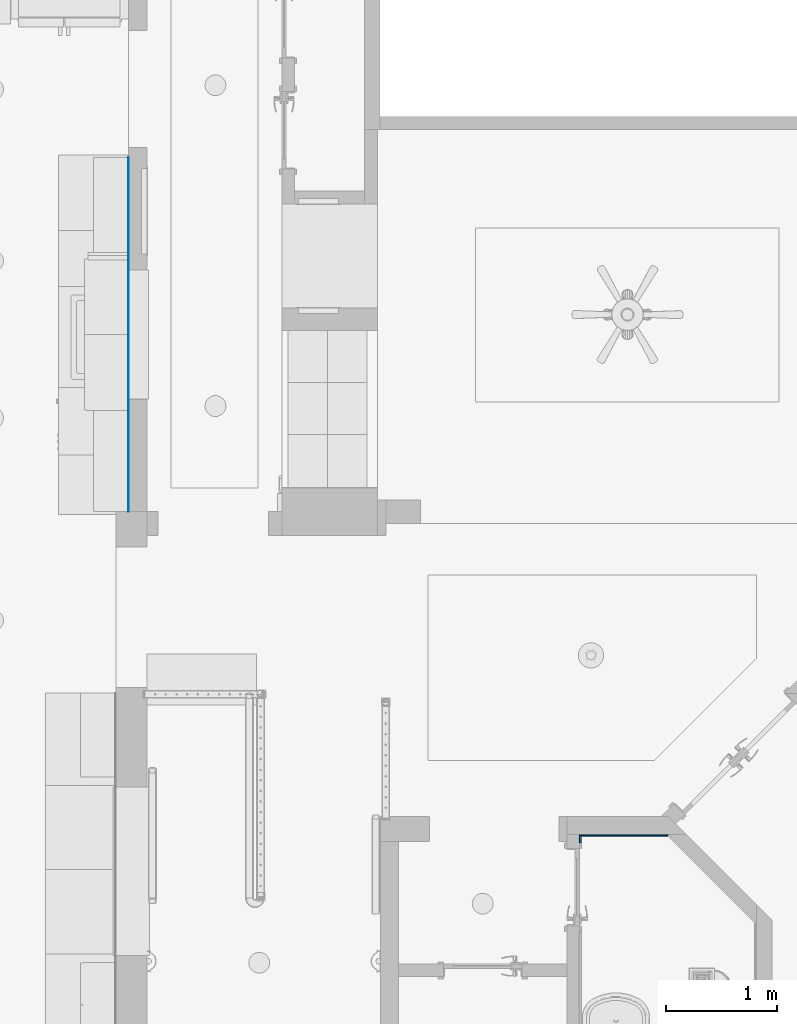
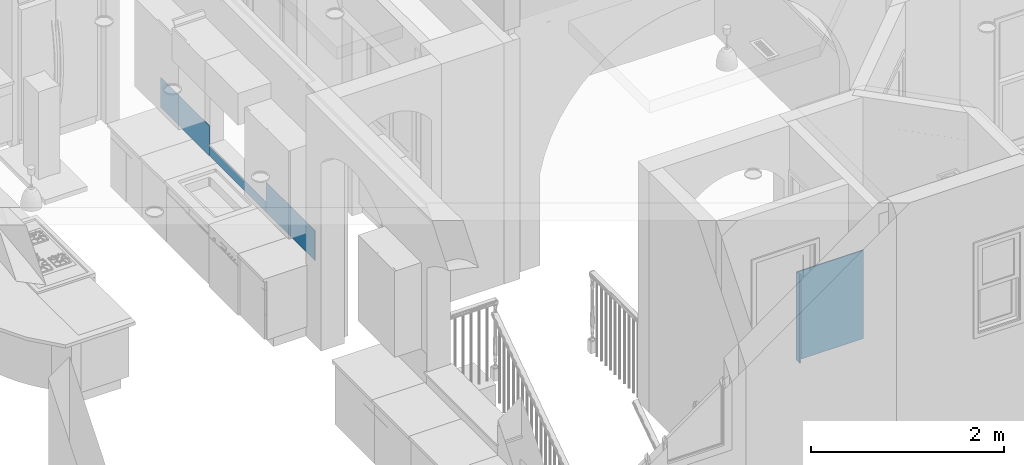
# One storey, part 2 of 77: 5 beams.
"""IFC2X3 building model written with IfcOpenShell, lengths in inches."""

from ifc_helpers import new_model, entity, si_unit, converted_unit, derived_unit, money_unit, direction, frame, origin_with_axes, place, context, subcontext, project, spatial, faceted_brep, material, type_object, element, save


model = new_model("IFC2X3")

# Units and contexts
model_context = context("Model", 3, precision=0.000393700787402, world=origin_with_axes(), true_north=direction((0.0, 1.0)))
body_context = subcontext(model_context, "Body", "Model", "MODEL_VIEW")
ifc_project = project(units=[converted_unit("LENGTHUNIT", "INCH", entity("IfcPositiveLengthMeasure", 0.0254), si_unit("LENGTHUNIT", "METRE"), dimensions=[1, 0, 0, 0, 0, 0, 0]), converted_unit("AREAUNIT", "SQUARE_FOOT", entity("IfcPositiveLengthMeasure", 0.09290304), si_unit("AREAUNIT", "SQUARE_METRE"), dimensions=[2, 0, 0, 0, 0, 0, 0]), si_unit("PLANEANGLEUNIT", "RADIAN"), si_unit("SOLIDANGLEUNIT", "STERADIAN"), money_unit("USD"), converted_unit("TIMEUNIT", "Year", entity("IfcTimeMeasure", 31556926.0), si_unit("TIMEUNIT", "SECOND"), dimensions=[0, 0, 1, 0, 0, 0, 0]), si_unit("MASSUNIT", "GRAM", prefix="KILO"), si_unit("THERMODYNAMICTEMPERATUREUNIT", "DEGREE_CELSIUS"), si_unit("LUMINOUSINTENSITYUNIT", "LUMEN"), si_unit("ENERGYUNIT", "JOULE", prefix="MEGA"), derived_unit("THERMALCONDUCTANCEUNIT", [(si_unit("POWERUNIT", "WATT"), 1), (si_unit("LENGTHUNIT", "METRE"), -1), (si_unit("THERMODYNAMICTEMPERATUREUNIT", "KELVIN"), -1)]), derived_unit("SPECIFICHEATCAPACITYUNIT", [(si_unit("ENERGYUNIT", "JOULE"), 1), (si_unit("MASSUNIT", "GRAM", prefix="KILO"), -1), (si_unit("THERMODYNAMICTEMPERATUREUNIT", "KELVIN"), -1)]), derived_unit("MASSDENSITYUNIT", [(si_unit("MASSUNIT", "GRAM", prefix="KILO"), 1), (si_unit("VOLUMEUNIT", "CUBIC_METRE"), -1)])], contexts=[model_context])

# Site, building, storey
site_placement = place(None, origin_with_axes())
site = spatial("IfcSite", under=ifc_project, at=site_placement, Name="Site", CompositionType="ELEMENT")
building_placement = place(site_placement, origin_with_axes())
building = spatial("IfcBuilding", under=site, at=building_placement, Name="Building", CompositionType="ELEMENT")
storey_placement = place(building_placement, frame((0.0, 0.0, 127.952755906), z_axis=(0.0, 0.0, 1.0), x_axis=(1.0, 0.0, 0.0)))
storey = spatial("IfcBuildingStorey", under=building, at=storey_placement, Name="Second Floor", CompositionType="ELEMENT", Elevation=127.953)

# Beams
ifc_material = material(Name="Tile - Wall")
beam_type_1 = type_object("IfcBeamType", Name="Tile - Wall 15 x 1120", PredefinedType="NOTDEFINED")
beam_1_placement = place(storey_placement, frame((829.567378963, 94.9920424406, 0.0), z_axis=(0.0, 0.0, 1.0), x_axis=(7.21811171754e-08, 1.0, 0.0)))
element("IfcBeam", 1, at=beam_1_placement, inside=storey, type_object=beam_type_1, material=ifc_material, Name="BMR - 113", context=body_context, shape_type="Brep", body=[
    faceted_brep([(-0.590551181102, 0.244546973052, 44.094488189), (-0.590551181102, 0.244546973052, 0.0157480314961), (0.0, 0.0, 0.0157480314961), (0.0, 0.0, 44.094488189), (-0.590551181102, 31.0585486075, 44.094488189), (-0.590551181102, 31.0585486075, 0.0157480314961), (0.0, 31.6490998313, 0.0157480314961), (0.0, 31.6490998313, 44.094488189)], [[[0, 1, 2, 3]], [[4, 5, 1, 0]], [[5, 6, 2, 1]], [[3, 2, 6, 7]], [[4, 0, 3, 7]], [[7, 6, 5, 4]]]),
])
beam_2_placement = place(storey_placement, frame((797.918279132, 94.9920447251, 0.0), z_axis=(0.0, 0.0, 1.0), x_axis=(-1.0, 0.0, 0.0)))
element("IfcBeam", 2, at=beam_2_placement, inside=storey, type_object=beam_type_1, material=ifc_material, Name="BMR - 113", context=body_context, shape_type="Brep", body=[
    faceted_brep([(-0.590551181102, 2.95118929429, 44.094488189), (-0.590551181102, 2.95118929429, 0.0157480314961), (-0.590551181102, 0.590551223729, 0.0157480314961), (-0.590551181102, 0.590551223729, 44.094488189), (0.0, 2.95118929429, 44.094488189), (0.0, 2.95118929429, 0.0157480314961), (0.0, 0.0, 0.0157480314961), (0.0, 0.0, 44.094488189)], [[[0, 1, 2, 3]], [[4, 5, 1, 0]], [[5, 6, 2, 1]], [[3, 2, 6, 7]], [[4, 0, 3, 7]], [[7, 6, 5, 4]]]),
])
beam_type_2 = type_object("IfcBeamType", Name="Tile - Wall 5 x 380", PredefinedType="NOTDEFINED")
beam_3_placement = place(storey_placement, frame((637.489640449, 209.871739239, 36.0236220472), z_axis=(0.0, 0.0, 1.0), x_axis=(1.0, -7.36885791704e-08, 0.0)))
element("IfcBeam", 3, at=beam_3_placement, inside=storey, type_object=beam_type_2, material=ifc_material, Name="BMR - 041", context=body_context, shape_type="Brep", body=[
    faceted_brep([(-0.196850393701, 0.0, 14.9606299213), (-0.0241800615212, 7.30693336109e-07, 14.9606299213), (-0.0208599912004, 39.9733484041, 14.9606299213), (-0.196850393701, 39.9733484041, 14.9606299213), (-0.196850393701, 0.0, 0.0), (-0.0241800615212, 5.1569216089e-07, 0.0), (-0.0208599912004, 39.9733484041, 0.0), (-0.196850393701, 39.9733484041, 0.0)], [[[0, 1, 2, 3]], [[4, 5, 1, 0]], [[5, 6, 2, 1]], [[3, 2, 6, 7]], [[4, 0, 3, 7]], [[7, 6, 5, 4]]]),
])
beam_4_placement = place(storey_placement, frame((637.475934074, 295.901564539, 36.0236220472), z_axis=(0.0, 0.0, 1.0), x_axis=(1.0, 0.0, 0.0)))
element("IfcBeam", 4, at=beam_4_placement, inside=storey, type_object=beam_type_2, material=ifc_material, Name="BMR - 041", context=body_context, shape_type="Brep", body=[
    faceted_brep([(-0.196850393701, 0.0, 14.9606299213), (-0.00332195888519, 0.0, 14.9606299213), (1.63641872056e-05, 40.1574803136, 14.9606299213), (-0.196850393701, 40.157480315, 14.9606299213), (-0.196850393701, 0.0, 0.0), (-0.00332195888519, 0.0, 0.0), (1.63641872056e-05, 40.1574803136, 0.0), (-0.196850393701, 40.157480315, 0.0)], [[[0, 1, 2, 3]], [[4, 5, 1, 0]], [[5, 6, 2, 1]], [[3, 2, 6, 7]], [[4, 0, 3, 7]], [[7, 6, 5, 4]]]),
])
beam_type_3 = type_object("IfcBeamType", Name="Tile - Wall 5 x 125", PredefinedType="NOTDEFINED")
beam_5_placement = place(storey_placement, frame((637.489643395, 249.845087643, 36.0236220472), z_axis=(0.0, 0.0, 1.0), x_axis=(1.0, 0.0, 0.0)))
element("IfcBeam", 5, at=beam_5_placement, inside=storey, type_object=beam_type_3, material=ifc_material, Name="BMR - 041", context=body_context, shape_type="Brep", body=[
    faceted_brep([(-0.196850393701, 0.0, 4.92125984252), (-0.0208599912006, 0.0, 4.92125984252), (-0.0170312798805, 46.0564768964, 4.92125984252), (-0.196850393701, 46.0564768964, 4.92125984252), (-0.196850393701, 0.0, 0.0), (-0.0208599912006, 0.0, 0.0), (-0.0170312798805, 46.0564768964, 0.0), (-0.196850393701, 46.0564768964, 0.0)], [[[0, 1, 2, 3]], [[4, 5, 1, 0]], [[5, 6, 2, 1]], [[3, 2, 6, 7]], [[4, 0, 3, 7]], [[7, 6, 5, 4]]]),
])

save(model, "model.ifc")
